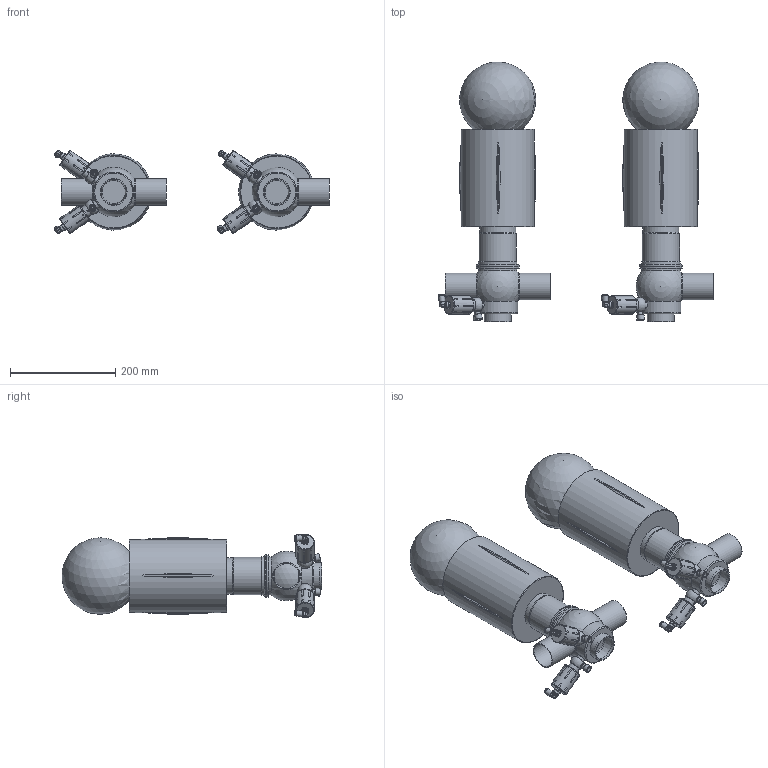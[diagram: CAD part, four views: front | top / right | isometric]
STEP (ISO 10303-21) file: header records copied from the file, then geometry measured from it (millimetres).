
FILE_DESCRIPTION(/* description */ (''),/* implementation_level */ '2;1');
FILE_NAME(/* name */ 'C:\Users\marz-m\Downloads\BZZAW3 3D STEP\BZAW3-DN050.8X1.65-SAL.stp',/* time_stamp */ '2018-09-26T11:28:53+02:00',/* author */ ('marz-m'),/* organization */ (''),/* preprocessor_version */ 'ST-DEVELOPER v17',/* originating_system */ 'Autodesk Inventor 2018',/* authorisation */ '');
FILE_SCHEMA (('AUTOMOTIVE_DESIGN { 1 0 10303 214 3 1 1 }'));
Length unit declared in the file: millimetre
Products named in the file (7): BZAW3-DN050.8X1.65-SAL; TRH6C0200BBA; Assemblaggio-DN050; CIL134; SAGOMA-GIOTTO-; TRH5C0200BBA; Valvolina 3A
Assembly tree (12 placements, depth 2):
  BZAW3-DN050.8X1.65-SAL
    SAGOMA-GIOTTO-  x2
    CIL134  x2
    Assemblaggio-DN050  x2
    TRH6C0200BBA
    TRH5C0200BBA
    Valvolina 3A  x4
Bounding box: 522.39 x 493.47 x 157.72 mm (x, y, z)
Volume: 10591495.8 mm3; surface area: 606671 mm2
Topology: 12 solids, 12 shells, 638 faces, 1830 edges, 1292 vertices
Faces by surface type: plane 279, cylinder 192, cone 89, bspline 44, torus 23, sphere 11
Full cylindrical faces by diameter (mm): 2 x8, 6 x16, 7 x4, 8 x4, 8.1 x4, 10 x4, 11 x4, 11.5 x4, 12.918 x4, 13.157 x4, 14 x4, 15.9 x4, 16 x4, 20 x4, 22 x4, 35 x4, 44 x2, 47.5 x5, 50.8 x5, 69 x2, 71 x2, 73 x2, 76 x2, 81 x4, 139 x2
Entity records: 10286 total; most frequent: CARTESIAN_POINT 3806, DIRECTION 1295, ORIENTED_EDGE 1286, EDGE_CURVE 643, AXIS2_PLACEMENT_3D 546, VERTEX_POINT 466, CIRCLE 304, EDGE_LOOP 271
